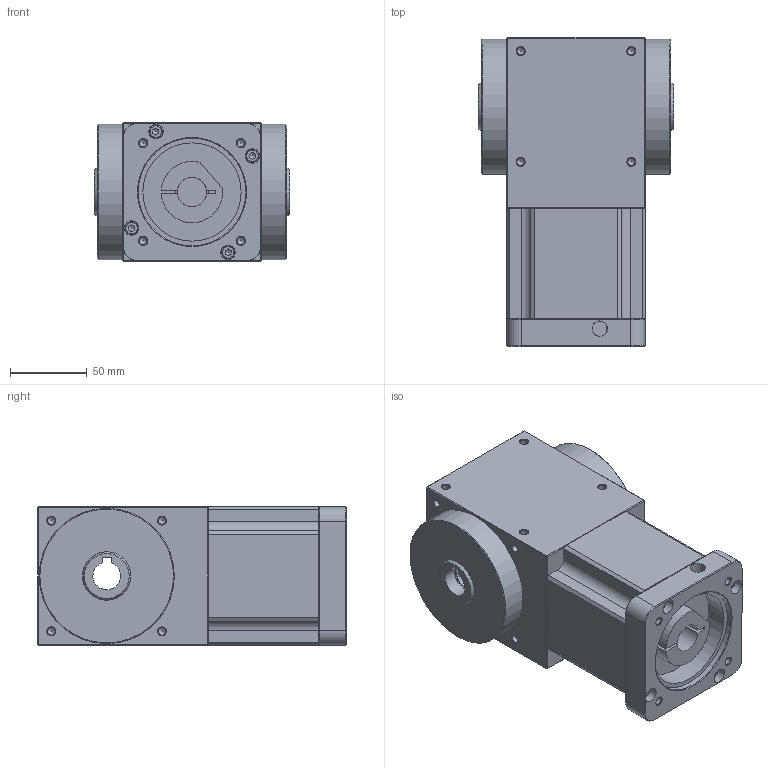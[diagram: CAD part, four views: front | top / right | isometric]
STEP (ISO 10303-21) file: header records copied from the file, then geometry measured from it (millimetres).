
FILE_DESCRIPTION((''),'2;1');
FILE_NAME('D:\유성\SBT 베벨기어박스\최종도면모음\3D\SBT090\SBT090PHS003~010H.stp','2014-05-20T10:35:14',('nagyu'),(''),'Autodesk Inventor 2013','Autodesk Inventor 2013','');
FILE_SCHEMA(('AUTOMOTIVE_DESIGN { 1 0 10303 214 1 1 1 1 }'));
Length unit declared in the file: millimetre
Products named in the file (1): SBT090PHS003~010H_Shrinkwrap_1
Bounding box: 127 x 201 x 90 mm (x, y, z)
Volume: 1659333 mm3; surface area: 121979.7 mm2
Topology: 1 solids, 5 shells, 307 faces, 778 edges, 470 vertices
Faces by surface type: plane 132, cylinder 94, cone 73, torus 8
Full cylindrical faces by diameter (mm): 4.917 x44, 5 x4, 5.5 x4, 6 x2, 8.5 x4, 9.5 x4, 10 x1, 19 x1, 22 x1, 64 x1, 70 x1, 88 x2
Entity records: 7999 total; most frequent: DIRECTION 1448, CARTESIAN_POINT 1365, ORIENTED_EDGE 1142, AXIS2_PLACEMENT_3D 594, EDGE_CURVE 571, EDGE_LOOP 476, VERTEX_POINT 405, FACE_OUTER_BOUND 307
